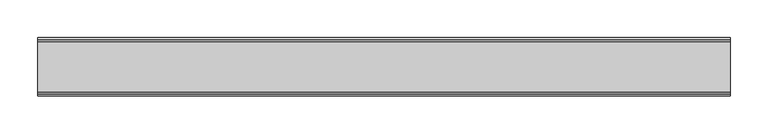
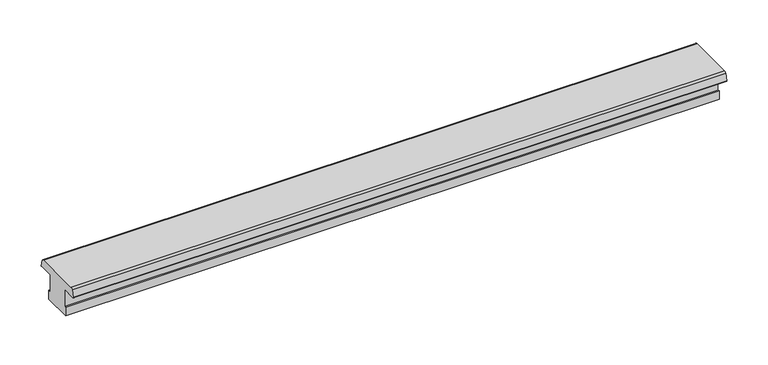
"""IFC4 building model written with IfcOpenShell, lengths in millimetres: proxy geometry, Weiku - Montante - Divisor 02.2.01.040 : Weiku - Montante - Divisor 02.2.01.040."""

from ifc_helpers import new_model, si_unit, point, frame, frame_2d, origin, place, context, project, spatial, polyline, circle_curve, trimmed, segment, composite_curve, outline, extrude, source, transform, mapped, element, save


def generic_models_e66ec5eb(model_context):
    return source(origin(), model_context, "Body", "SweptSolid", [
        extrude(outline(composite_curve([segment(trimmed(circle_curve(frame_2d((33.0007245, 47.0)), 3.0), [point((33.0007245, 50.0))], [point((35.898502, 47.7764571))], False, "CARTESIAN"), True, "CONTINUOUS"), segment(polyline([(35.898502, 47.7764571), (38.4496907, 38.2552914)]), True, "CONTINUOUS"), segment(trimmed(circle_curve(frame_2d((37.8701352, 38.1)), 0.6), [point((38.4496907, 38.2552914))], [point((37.8701352, 37.5))], False, "CARTESIAN"), True, "CONTINUOUS"), segment(polyline([(37.8701352, 37.5), (17.5004577, 37.5), (17.5004577, 12.168694), (20.5, 12.972419), (20.5, 0.0), (-20.5, 0.0), (-20.5, 12.972419), (-17.5004577, 12.168694), (-17.5004577, 37.5), (-37.8701352, 37.5)]), True, "CONTINUOUS"), segment(trimmed(circle_curve(frame_2d((-37.8701352, 38.1)), 0.6), [point((-37.8701352, 37.5))], [point((-38.4496907, 38.2552914))], False, "CARTESIAN"), True, "CONTINUOUS"), segment(polyline([(-38.4496907, 38.2552914), (-35.898502, 47.7764571)]), True, "CONTINUOUS"), segment(trimmed(circle_curve(frame_2d((-33.0007245, 47.0)), 3.0), [point((-35.898502, 47.7764571))], [point((-33.0007245, 50.0))], False, "CARTESIAN"), True, "CONTINUOUS"), segment(polyline([(-33.0007245, 50.0), (33.0007245, 50.0)]), True, "CONTINUOUS")], self_intersect=False)), frame((-456.0, 0.0, 0.0), z_axis=(1.0, 0.0, 0.0), x_axis=(0.0, 1.0, 0.0)), (0.0, 0.0, 1.0), 912.0),
    ])


if __name__ == "__main__":
    model = new_model("IFC4")
    model_context = context("Model", 3, world=origin())
    ifc_project = project(units=[si_unit("LENGTHUNIT", "METRE", prefix="MILLI")], contexts=[model_context])
    site = spatial("IfcSite", under=ifc_project)
    building = spatial("IfcBuilding", under=site)
    placement = place(None, origin())
    generic_models_shape = generic_models_e66ec5eb(model_context)
    element("IfcBuildingElementProxy", 1, Name="Weiku - Montante - Divisor 02.2.01.040 : Weiku - Montante - Divisor 02.2.01.040", ObjectType="Weiku - Montante - Divisor 02.2.01.040 : Weiku - Montante - Divisor 02.2.01.040", at=placement, inside=building, context=model_context, shape_type="MappedRepresentation", body=[
        mapped(generic_models_shape, transform((0.0, 0.0, 0.0), x_axis=(1.0, 0.0, 0.0), y_axis=(0.0, 1.0, 0.0), z_axis=(0.0, 0.0, 1.0))),
    ])
    save(model, "model.ifc")
